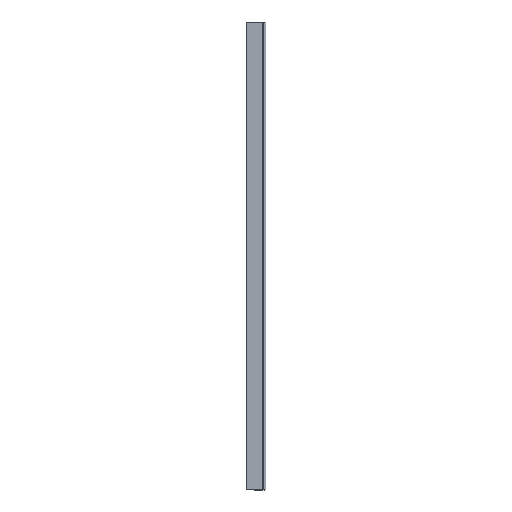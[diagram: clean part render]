
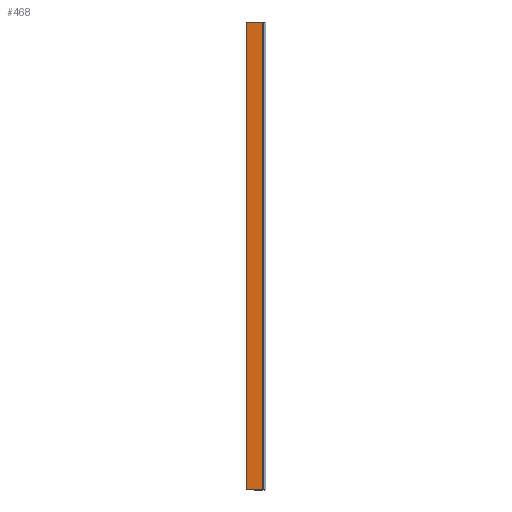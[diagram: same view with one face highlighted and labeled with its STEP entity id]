
A CAD part, left-side view. The second image highlights one B-rep face of the part: STEP entity #468.
In plain terms, the highlighted planar face has unit normal (-1, 0, 0).
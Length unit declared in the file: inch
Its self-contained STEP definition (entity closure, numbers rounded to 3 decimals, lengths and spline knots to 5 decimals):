
#36 = LINE ( 'NONE', #695, #61 ) ;
#61 = VECTOR ( 'NONE', #389, 39.37008 ) ;
#63 = EDGE_CURVE ( 'NONE', #138, #180, #113, .T. ) ;
#95 = ORIENTED_EDGE ( 'NONE', *, *, #525, .F. ) ;
#106 = EDGE_CURVE ( 'NONE', #269, #138, #813, .T. ) ;
#113 = LINE ( 'NONE', #207, #173 ) ;
#138 = VERTEX_POINT ( 'NONE', #484 ) ;
#173 = VECTOR ( 'NONE', #797, 39.37008 ) ;
#180 = VERTEX_POINT ( 'NONE', #578 ) ;
#207 = CARTESIAN_POINT ( 'NONE',  ( 0., 0.03937, 0. ) ) ;
#269 = VERTEX_POINT ( 'NONE', #563 ) ;
#340 = DIRECTION ( 'NONE',  ( 1., 0., 0. ) ) ;
#372 = DIRECTION ( 'NONE',  ( 0., 0., -1. ) ) ;
#389 = DIRECTION ( 'NONE',  ( 0., -1., 0. ) ) ;
#404 = DIRECTION ( 'NONE',  ( 0., 0., -1. ) ) ;
#445 = EDGE_CURVE ( 'NONE', #826, #180, #498, .T. ) ;
#468 = ADVANCED_FACE ( 'NONE', ( #485 ), #787, .F. ) ;
#484 = CARTESIAN_POINT ( 'NONE',  ( 0., 2.75, 0. ) ) ;
#485 = FACE_OUTER_BOUND ( 'NONE', #572, .T. ) ;
#498 = LINE ( 'NONE', #506, #792 ) ;
#506 = CARTESIAN_POINT ( 'NONE',  ( 0., 0.03937, 78.74016 ) ) ;
#520 = CARTESIAN_POINT ( 'NONE',  ( 0., 0.03937, 78.74016 ) ) ;
#525 = EDGE_CURVE ( 'NONE', #269, #826, #36, .T. ) ;
#553 = DIRECTION ( 'NONE',  ( 0., 0., -1. ) ) ;
#563 = CARTESIAN_POINT ( 'NONE',  ( 0., 2.75, 78.74016 ) ) ;
#570 = ORIENTED_EDGE ( 'NONE', *, *, #106, .T. ) ;
#572 = EDGE_LOOP ( 'NONE', ( #780, #607, #95, #570 ) ) ;
#578 = CARTESIAN_POINT ( 'NONE',  ( 0., 0.03937, 0. ) ) ;
#591 = AXIS2_PLACEMENT_3D ( 'NONE', #702, #340, #372 ) ;
#594 = VECTOR ( 'NONE', #553, 39.37008 ) ;
#607 = ORIENTED_EDGE ( 'NONE', *, *, #445, .F. ) ;
#695 = CARTESIAN_POINT ( 'NONE',  ( 0., 0.03937, 78.74016 ) ) ;
#702 = CARTESIAN_POINT ( 'NONE',  ( 0., 0.03937, 78.74016 ) ) ;
#733 = CARTESIAN_POINT ( 'NONE',  ( 0., 2.75, 78.74016 ) ) ;
#780 = ORIENTED_EDGE ( 'NONE', *, *, #63, .T. ) ;
#787 = PLANE ( 'NONE',  #591 ) ;
#792 = VECTOR ( 'NONE', #404, 39.37008 ) ;
#797 = DIRECTION ( 'NONE',  ( 0., -1., 0. ) ) ;
#813 = LINE ( 'NONE', #733, #594 ) ;
#826 = VERTEX_POINT ( 'NONE', #520 ) ;
